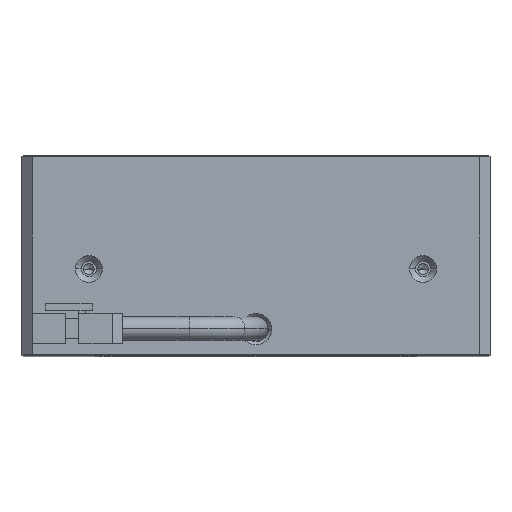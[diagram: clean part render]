
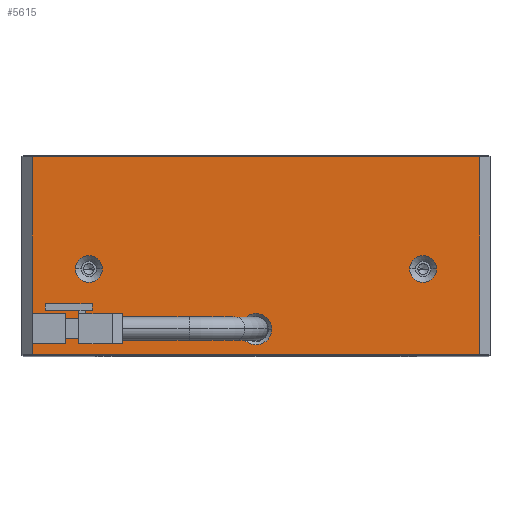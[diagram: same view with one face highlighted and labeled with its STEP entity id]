
A CAD part, top view. The second image highlights one B-rep face of the part: STEP entity #5615.
In plain terms, the highlighted planar face has unit normal (0, 0, 1).
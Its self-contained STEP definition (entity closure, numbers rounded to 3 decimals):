
#4034=DIRECTION('',(0.,1.,0.));
#4035=VECTOR('',#4034,29.6);
#4036=CARTESIAN_POINT('',(-33.5,0.2,35.));
#4037=LINE('',#4036,#4035);
#4038=CARTESIAN_POINT('',(-25.,13.,35.));
#4039=DIRECTION('',(0.,0.,1.));
#4040=DIRECTION('',(-1.,0.,0.));
#4041=AXIS2_PLACEMENT_3D('',#4038,#4039,#4040);
#4043=CARTESIAN_POINT('',(-25.,13.,35.));
#4044=DIRECTION('',(0.,0.,1.));
#4045=DIRECTION('',(1.,0.,0.));
#4046=AXIS2_PLACEMENT_3D('',#4043,#4044,#4045);
#4048=CARTESIAN_POINT('',(25.,13.,35.));
#4049=DIRECTION('',(0.,0.,1.));
#4050=DIRECTION('',(-1.,0.,0.));
#4051=AXIS2_PLACEMENT_3D('',#4048,#4049,#4050);
#4053=CARTESIAN_POINT('',(25.,13.,35.));
#4054=DIRECTION('',(0.,0.,1.));
#4055=DIRECTION('',(1.,0.,0.));
#4056=AXIS2_PLACEMENT_3D('',#4053,#4054,#4055);
#4058=CARTESIAN_POINT('',(0.,4.,35.));
#4059=DIRECTION('',(0.,0.,1.));
#4060=DIRECTION('',(-1.,0.,0.));
#4061=AXIS2_PLACEMENT_3D('',#4058,#4059,#4060);
#4063=CARTESIAN_POINT('',(0.,4.,35.));
#4064=DIRECTION('',(0.,0.,1.));
#4065=DIRECTION('',(1.,0.,0.));
#4066=AXIS2_PLACEMENT_3D('',#4063,#4064,#4065);
#4072=DIRECTION('',(0.,1.,0.));
#4073=VECTOR('',#4072,29.6);
#4074=CARTESIAN_POINT('',(33.5,0.2,35.));
#4075=LINE('',#4074,#4073);
#4136=DIRECTION('',(1.,0.,0.));
#4137=VECTOR('',#4136,67.);
#4138=CARTESIAN_POINT('',(-33.5,0.2,35.));
#4139=LINE('',#4138,#4137);
#4404=DIRECTION('',(1.,0.,0.));
#4405=VECTOR('',#4404,67.);
#4406=CARTESIAN_POINT('',(-33.5,29.8,35.));
#4407=LINE('',#4406,#4405);
#4836=CARTESIAN_POINT('',(-33.5,0.2,35.));
#4837=CARTESIAN_POINT('',(-33.5,29.8,35.));
#4838=VERTEX_POINT('',#4836);
#4839=VERTEX_POINT('',#4837);
#4840=CARTESIAN_POINT('',(33.5,0.2,35.));
#4841=CARTESIAN_POINT('',(33.5,29.8,35.));
#4842=VERTEX_POINT('',#4840);
#4843=VERTEX_POINT('',#4841);
#4844=CARTESIAN_POINT('',(-27.,13.,35.));
#4845=CARTESIAN_POINT('',(-23.,13.,35.));
#4846=VERTEX_POINT('',#4844);
#4847=VERTEX_POINT('',#4845);
#4848=CARTESIAN_POINT('',(23.,13.,35.));
#4849=CARTESIAN_POINT('',(27.,13.,35.));
#4850=VERTEX_POINT('',#4848);
#4851=VERTEX_POINT('',#4849);
#4852=CARTESIAN_POINT('',(-2.35,4.,35.));
#4853=CARTESIAN_POINT('',(2.35,4.,35.));
#4854=VERTEX_POINT('',#4852);
#4855=VERTEX_POINT('',#4853);
#5583=CARTESIAN_POINT('',(0.,15.,35.));
#5584=DIRECTION('',(0.,0.,1.));
#5585=DIRECTION('',(-1.,0.,0.));
#5586=AXIS2_PLACEMENT_3D('',#5583,#5584,#5585);
#5587=PLANE('',#5586);
#5589=ORIENTED_EDGE('',*,*,#5588,.F.);
#5591=ORIENTED_EDGE('',*,*,#5590,.F.);
#5592=ORIENTED_EDGE('',*,*,#5573,.T.);
#5594=ORIENTED_EDGE('',*,*,#5593,.T.);
#5595=EDGE_LOOP('',(#5589,#5591,#5592,#5594));
#5596=FACE_OUTER_BOUND('',#5595,.F.);
#5598=ORIENTED_EDGE('',*,*,#5597,.T.);
#5600=ORIENTED_EDGE('',*,*,#5599,.T.);
#5601=EDGE_LOOP('',(#5598,#5600));
#5602=FACE_BOUND('',#5601,.F.);
#5604=ORIENTED_EDGE('',*,*,#5603,.T.);
#5606=ORIENTED_EDGE('',*,*,#5605,.T.);
#5607=EDGE_LOOP('',(#5604,#5606));
#5608=FACE_BOUND('',#5607,.F.);
#5610=ORIENTED_EDGE('',*,*,#5609,.T.);
#5612=ORIENTED_EDGE('',*,*,#5611,.T.);
#5613=EDGE_LOOP('',(#5610,#5612));
#5614=FACE_BOUND('',#5613,.F.);
#5615=ADVANCED_FACE('',(#5596,#5602,#5608,#5614),#5587,.T.);
#4042=CIRCLE('',#4041,2.);
#4047=CIRCLE('',#4046,2.);
#4052=CIRCLE('',#4051,2.);
#4057=CIRCLE('',#4056,2.);
#4062=CIRCLE('',#4061,2.35);
#4067=CIRCLE('',#4066,2.35);
#5573=EDGE_CURVE('',#4838,#4839,#4037,.T.);
#5588=EDGE_CURVE('',#4842,#4843,#4075,.T.);
#5590=EDGE_CURVE('',#4838,#4842,#4139,.T.);
#5593=EDGE_CURVE('',#4839,#4843,#4407,.T.);
#5597=EDGE_CURVE('',#4846,#4847,#4042,.T.);
#5599=EDGE_CURVE('',#4847,#4846,#4047,.T.);
#5603=EDGE_CURVE('',#4850,#4851,#4052,.T.);
#5605=EDGE_CURVE('',#4851,#4850,#4057,.T.);
#5609=EDGE_CURVE('',#4854,#4855,#4062,.T.);
#5611=EDGE_CURVE('',#4855,#4854,#4067,.T.);
